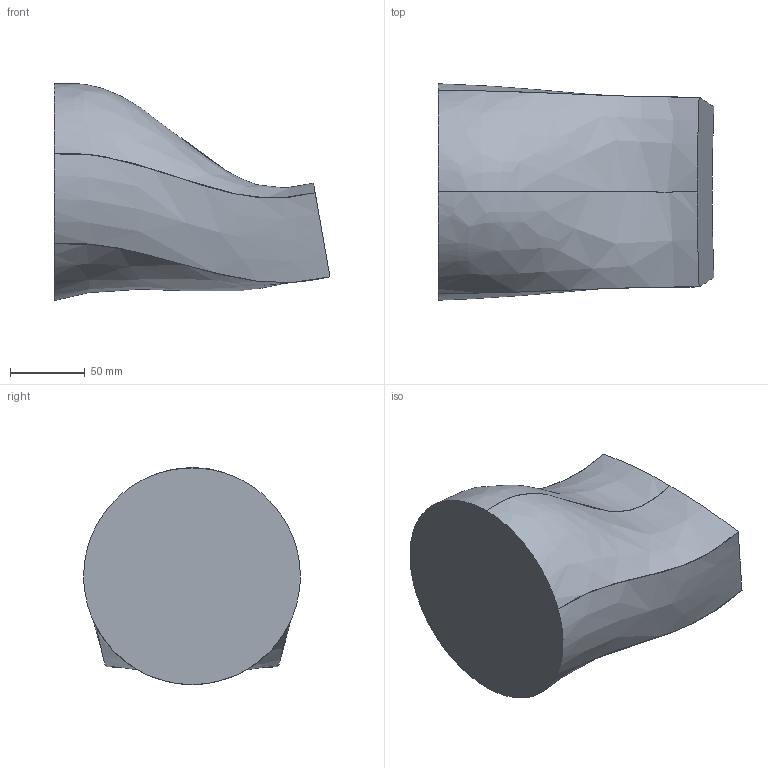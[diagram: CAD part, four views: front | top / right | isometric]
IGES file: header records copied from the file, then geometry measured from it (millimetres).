
Start section: prosurf version 3.15.7 IGES Output
Global section: file name: diffuser_full.iges; native system: prosurf IGES conversion; preprocessor: Version 5.2; author: kevinj; date: 20040116.100258; units: inch
Bounding box: 184.42 x 144.66 x 145.13 mm (x, y, z)
Surface area: 96165.4 mm2 (no closed solid volume)
Topology: 0 solids, 0 shells, 7 faces, 118 edges, 118 vertices
Faces by surface type: bspline 7
